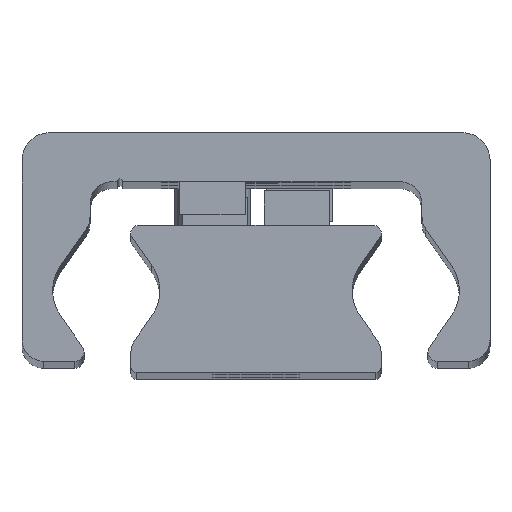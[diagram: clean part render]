
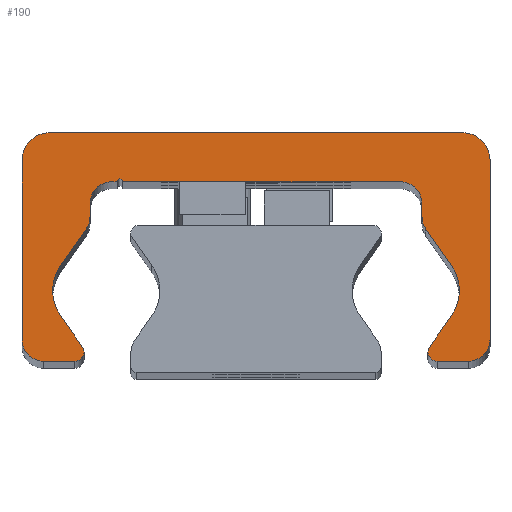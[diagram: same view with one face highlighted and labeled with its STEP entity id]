
A CAD part, top view. The second image highlights one B-rep face of the part: STEP entity #190.
In plain terms, the highlighted planar face has unit normal (0, 0, 1).
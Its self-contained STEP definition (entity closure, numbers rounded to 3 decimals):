
#190=ADVANCED_FACE('',(#468),#469,.T.);
#468=FACE_OUTER_BOUND('',#747,.T.);
#469=PLANE('',#748);
#747=EDGE_LOOP('',(#1714,#1715,#1716,#1717,#1718,#1719,#1720,#1721,#1722,#1723,#1724,#1725,#1726,#1727,#1728,#1729,#1730,#1731,#1732,#1733,#1734,#1735,#1736,#1737,#1738,#1739,#1740,#1741,#1742,#1743));
#748=AXIS2_PLACEMENT_3D('',#1744,#1745,#1746);
#1714=ORIENTED_EDGE('',*,*,#1949,.F.);
#1715=ORIENTED_EDGE('',*,*,#2102,.F.);
#1716=ORIENTED_EDGE('',*,*,#1935,.F.);
#1717=ORIENTED_EDGE('',*,*,#2101,.F.);
#1718=ORIENTED_EDGE('',*,*,#2097,.F.);
#1719=ORIENTED_EDGE('',*,*,#2094,.F.);
#1720=ORIENTED_EDGE('',*,*,#2091,.F.);
#1721=ORIENTED_EDGE('',*,*,#2088,.F.);
#1722=ORIENTED_EDGE('',*,*,#2085,.F.);
#1723=ORIENTED_EDGE('',*,*,#2082,.F.);
#1724=ORIENTED_EDGE('',*,*,#2079,.F.);
#1725=ORIENTED_EDGE('',*,*,#2076,.F.);
#1726=ORIENTED_EDGE('',*,*,#2073,.F.);
#1727=ORIENTED_EDGE('',*,*,#2070,.F.);
#1728=ORIENTED_EDGE('',*,*,#1941,.F.);
#1729=ORIENTED_EDGE('',*,*,#2068,.F.);
#1730=ORIENTED_EDGE('',*,*,#1943,.F.);
#1731=ORIENTED_EDGE('',*,*,#2067,.F.);
#1732=ORIENTED_EDGE('',*,*,#2063,.F.);
#1733=ORIENTED_EDGE('',*,*,#2060,.F.);
#1734=ORIENTED_EDGE('',*,*,#2057,.F.);
#1735=ORIENTED_EDGE('',*,*,#2054,.F.);
#1736=ORIENTED_EDGE('',*,*,#2051,.F.);
#1737=ORIENTED_EDGE('',*,*,#2048,.F.);
#1738=ORIENTED_EDGE('',*,*,#2045,.F.);
#1739=ORIENTED_EDGE('',*,*,#2042,.F.);
#1740=ORIENTED_EDGE('',*,*,#2039,.F.);
#1741=ORIENTED_EDGE('',*,*,#2036,.F.);
#1742=ORIENTED_EDGE('',*,*,#2033,.F.);
#1743=ORIENTED_EDGE('',*,*,#2030,.F.);
#1744=CARTESIAN_POINT('',(-0.023,14.187,370.0));
#1745=DIRECTION('',(0.0,0.0,1.0));
#1746=DIRECTION('',(1.0,0.0,0.0));
#1935=EDGE_CURVE('',#2354,#2357,#2358,.T.);
#1941=EDGE_CURVE('',#2367,#2363,#2369,.T.);
#1943=EDGE_CURVE('',#2370,#2373,#2374,.T.);
#1949=EDGE_CURVE('',#2383,#2379,#2385,.T.);
#2030=EDGE_CURVE('',#2379,#2516,#2517,.T.);
#2033=EDGE_CURVE('',#2516,#2521,#2522,.T.);
#2036=EDGE_CURVE('',#2521,#2526,#2527,.T.);
#2039=EDGE_CURVE('',#2526,#2531,#2532,.T.);
#2042=EDGE_CURVE('',#2531,#2536,#2537,.T.);
#2045=EDGE_CURVE('',#2536,#2541,#2542,.T.);
#2048=EDGE_CURVE('',#2541,#2546,#2547,.T.);
#2051=EDGE_CURVE('',#2546,#2551,#2552,.T.);
#2054=EDGE_CURVE('',#2551,#2556,#2557,.T.);
#2057=EDGE_CURVE('',#2556,#2561,#2562,.T.);
#2060=EDGE_CURVE('',#2561,#2566,#2567,.T.);
#2063=EDGE_CURVE('',#2566,#2571,#2572,.T.);
#2067=EDGE_CURVE('',#2571,#2370,#2577,.T.);
#2068=EDGE_CURVE('',#2373,#2367,#2578,.T.);
#2070=EDGE_CURVE('',#2363,#2580,#2581,.T.);
#2073=EDGE_CURVE('',#2580,#2585,#2586,.T.);
#2076=EDGE_CURVE('',#2585,#2590,#2591,.T.);
#2079=EDGE_CURVE('',#2590,#2595,#2596,.T.);
#2082=EDGE_CURVE('',#2595,#2600,#2601,.T.);
#2085=EDGE_CURVE('',#2600,#2605,#2606,.T.);
#2088=EDGE_CURVE('',#2605,#2610,#2611,.T.);
#2091=EDGE_CURVE('',#2610,#2615,#2616,.T.);
#2094=EDGE_CURVE('',#2615,#2620,#2621,.T.);
#2097=EDGE_CURVE('',#2620,#2625,#2626,.T.);
#2101=EDGE_CURVE('',#2625,#2354,#2631,.T.);
#2102=EDGE_CURVE('',#2357,#2383,#2632,.T.);
#2354=VERTEX_POINT('',#2974);
#2357=VERTEX_POINT('',#2978);
#2358=CIRCLE('',#2979,0.85);
#2363=VERTEX_POINT('',#2985);
#2367=VERTEX_POINT('',#2990);
#2369=CIRCLE('',#2993,0.85);
#2370=VERTEX_POINT('',#2994);
#2373=VERTEX_POINT('',#2998);
#2374=CIRCLE('',#2999,4.);
#2379=VERTEX_POINT('',#3005);
#2383=VERTEX_POINT('',#3010);
#2385=CIRCLE('',#3013,4.);
#2516=VERTEX_POINT('',#3190);
#2517=CIRCLE('',#3191,4.);
#2521=VERTEX_POINT('',#3196);
#2522=LINE('',#3197,#3198);
#2526=VERTEX_POINT('',#3204);
#2527=CIRCLE('',#3205,2.);
#2531=VERTEX_POINT('',#3210);
#2532=LINE('',#3211,#3212);
#2536=VERTEX_POINT('',#3218);
#2537=CIRCLE('',#3219,2.0);
#2541=VERTEX_POINT('',#3224);
#2542=LINE('',#3225,#3226);
#2546=VERTEX_POINT('',#3232);
#2547=CIRCLE('',#3233,0.25);
#2551=VERTEX_POINT('',#3238);
#2552=LINE('',#3239,#3240);
#2556=VERTEX_POINT('',#3246);
#2557=CIRCLE('',#3247,2.0);
#2561=VERTEX_POINT('',#3252);
#2562=LINE('',#3253,#3254);
#2566=VERTEX_POINT('',#3260);
#2567=CIRCLE('',#3261,2.0);
#2571=VERTEX_POINT('',#3266);
#2572=LINE('',#3267,#3268);
#2577=CIRCLE('',#3275,4.);
#2578=LINE('',#3276,#3277);
#2580=VERTEX_POINT('',#3280);
#2581=CIRCLE('',#3281,0.85);
#2585=VERTEX_POINT('',#3286);
#2586=LINE('',#3287,#3288);
#2590=VERTEX_POINT('',#3294);
#2591=CIRCLE('',#3295,2.);
#2595=VERTEX_POINT('',#3300);
#2596=LINE('',#3301,#3302);
#2600=VERTEX_POINT('',#3308);
#2601=CIRCLE('',#3309,2.5);
#2605=VERTEX_POINT('',#3314);
#2606=LINE('',#3315,#3316);
#2610=VERTEX_POINT('',#3322);
#2611=CIRCLE('',#3323,2.5);
#2615=VERTEX_POINT('',#3328);
#2616=LINE('',#3329,#3330);
#2620=VERTEX_POINT('',#3336);
#2621=CIRCLE('',#3337,2.);
#2625=VERTEX_POINT('',#3342);
#2626=LINE('',#3343,#3344);
#2631=CIRCLE('',#3351,0.85);
#2632=LINE('',#3352,#3353);
#2974=CARTESIAN_POINT('',(15.8,1.859,370.0));
#2978=CARTESIAN_POINT('',(15.922,2.298,370.0));
#2979=AXIS2_PLACEMENT_3D('',#3639,#3640,#3641);
#2985=CARTESIAN_POINT('',(-15.8,1.859,370.0));
#2990=CARTESIAN_POINT('',(-15.922,2.298,370.0));
#2993=AXIS2_PLACEMENT_3D('',#3651,#3652,#3653);
#2994=CARTESIAN_POINT('',(-18.688,7.509,370.0));
#2998=CARTESIAN_POINT('',(-17.964,5.214,370.0));
#2999=AXIS2_PLACEMENT_3D('',#3655,#3656,#3657);
#3005=CARTESIAN_POINT('',(18.688,7.509,370.0));
#3010=CARTESIAN_POINT('',(17.964,5.214,370.0));
#3013=AXIS2_PLACEMENT_3D('',#3667,#3668,#3669);
#3190=CARTESIAN_POINT('',(17.964,9.803,370.0));
#3191=AXIS2_PLACEMENT_3D('',#3818,#3819,#3820);
#3196=CARTESIAN_POINT('',(15.612,13.163,370.0));
#3197=CARTESIAN_POINT('',(15.612,13.163,370.0));
#3198=VECTOR('',#3825,1.0);
#3204=CARTESIAN_POINT('',(15.25,14.31,370.0));
#3205=AXIS2_PLACEMENT_3D('',#3828,#3829,#3830);
#3210=CARTESIAN_POINT('',(15.25,15.509,370.0));
#3211=CARTESIAN_POINT('',(15.25,15.509,370.0));
#3212=VECTOR('',#3835,1.0);
#3218=CARTESIAN_POINT('',(13.25,17.509,370.0));
#3219=AXIS2_PLACEMENT_3D('',#3838,#3839,#3840);
#3224=CARTESIAN_POINT('',(-12.25,17.509,370.0));
#3225=CARTESIAN_POINT('',(-12.25,17.509,370.0));
#3226=VECTOR('',#3845,1.0);
#3232=CARTESIAN_POINT('',(-12.75,17.509,370.0));
#3233=AXIS2_PLACEMENT_3D('',#3848,#3849,#3850);
#3238=CARTESIAN_POINT('',(-13.25,17.509,370.0));
#3239=CARTESIAN_POINT('',(-13.25,17.509,370.0));
#3240=VECTOR('',#3855,1.0);
#3246=CARTESIAN_POINT('',(-15.25,15.509,370.0));
#3247=AXIS2_PLACEMENT_3D('',#3858,#3859,#3860);
#3252=CARTESIAN_POINT('',(-15.25,14.31,370.0));
#3253=CARTESIAN_POINT('',(-15.25,14.31,370.0));
#3254=VECTOR('',#3865,1.0);
#3260=CARTESIAN_POINT('',(-15.612,13.163,370.0));
#3261=AXIS2_PLACEMENT_3D('',#3868,#3869,#3870);
#3266=CARTESIAN_POINT('',(-17.964,9.803,370.0));
#3267=CARTESIAN_POINT('',(-17.964,9.803,370.0));
#3268=VECTOR('',#3875,1.0);
#3275=AXIS2_PLACEMENT_3D('',#3881,#3882,#3883);
#3276=CARTESIAN_POINT('',(-15.922,2.298,370.0));
#3277=VECTOR('',#3884,1.0);
#3280=CARTESIAN_POINT('',(-16.65,1.009,370.0));
#3281=AXIS2_PLACEMENT_3D('',#3886,#3887,#3888);
#3286=CARTESIAN_POINT('',(-19.5,1.009,370.0));
#3287=CARTESIAN_POINT('',(-19.5,1.009,370.0));
#3288=VECTOR('',#3893,1.0);
#3294=CARTESIAN_POINT('',(-21.5,3.009,370.0));
#3295=AXIS2_PLACEMENT_3D('',#3896,#3897,#3898);
#3300=CARTESIAN_POINT('',(-21.5,19.509,370.0));
#3301=CARTESIAN_POINT('',(-21.5,19.509,370.0));
#3302=VECTOR('',#3903,1.0);
#3308=CARTESIAN_POINT('',(-19.0,22.009,370.0));
#3309=AXIS2_PLACEMENT_3D('',#3906,#3907,#3908);
#3314=CARTESIAN_POINT('',(19.0,22.009,370.0));
#3315=CARTESIAN_POINT('',(19.0,22.009,370.0));
#3316=VECTOR('',#3913,1.0);
#3322=CARTESIAN_POINT('',(21.5,19.509,370.0));
#3323=AXIS2_PLACEMENT_3D('',#3916,#3917,#3918);
#3328=CARTESIAN_POINT('',(21.5,3.009,370.0));
#3329=CARTESIAN_POINT('',(21.5,3.009,370.0));
#3330=VECTOR('',#3923,1.0);
#3336=CARTESIAN_POINT('',(19.5,1.009,370.0));
#3337=AXIS2_PLACEMENT_3D('',#3926,#3927,#3928);
#3342=CARTESIAN_POINT('',(16.65,1.009,370.0));
#3343=CARTESIAN_POINT('',(16.65,1.009,370.0));
#3344=VECTOR('',#3933,1.0);
#3351=AXIS2_PLACEMENT_3D('',#3939,#3940,#3941);
#3352=CARTESIAN_POINT('',(17.964,5.214,370.0));
#3353=VECTOR('',#3942,1.0);
#3639=CARTESIAN_POINT('',(16.65,1.859,370.0));
#3640=DIRECTION('',(0.0,0.0,-1.0));
#3641=DIRECTION('',(1.0,0.0,0.0));
#3651=CARTESIAN_POINT('',(-16.65,1.859,370.0));
#3652=DIRECTION('',(0.0,0.0,-1.0));
#3653=DIRECTION('',(1.0,0.0,0.0));
#3655=CARTESIAN_POINT('',(-14.688,7.509,370.0));
#3656=DIRECTION('',(0.0,0.0,1.0));
#3657=DIRECTION('',(1.0,0.0,0.0));
#3667=CARTESIAN_POINT('',(14.688,7.509,370.0));
#3668=DIRECTION('',(0.0,0.0,1.0));
#3669=DIRECTION('',(1.0,0.0,0.0));
#3818=CARTESIAN_POINT('',(14.688,7.509,370.0));
#3819=DIRECTION('',(0.0,0.0,1.0));
#3820=DIRECTION('',(1.0,0.0,0.0));
#3825=DIRECTION('',(-0.574,0.819,0.0));
#3828=CARTESIAN_POINT('',(17.25,14.31,370.0));
#3829=DIRECTION('',(0.0,0.0,-1.0));
#3830=DIRECTION('',(1.0,0.0,0.0));
#3835=DIRECTION('',(0.0,1.0,0.0));
#3838=CARTESIAN_POINT('',(13.25,15.509,370.0));
#3839=DIRECTION('',(0.0,0.0,1.0));
#3840=DIRECTION('',(1.0,0.0,0.0));
#3845=DIRECTION('',(-1.0,-0.0,-0.0));
#3848=CARTESIAN_POINT('',(-12.5,17.509,370.0));
#3849=DIRECTION('',(0.0,0.0,1.0));
#3850=DIRECTION('',(1.0,0.0,0.0));
#3855=DIRECTION('',(-1.0,-0.0,-0.0));
#3858=CARTESIAN_POINT('',(-13.25,15.509,370.0));
#3859=DIRECTION('',(0.0,0.0,1.0));
#3860=DIRECTION('',(1.0,0.0,0.0));
#3865=DIRECTION('',(-0.0,-1.0,-0.0));
#3868=CARTESIAN_POINT('',(-17.25,14.31,370.0));
#3869=DIRECTION('',(0.0,0.0,-1.0));
#3870=DIRECTION('',(1.0,0.0,0.0));
#3875=DIRECTION('',(-0.574,-0.819,-0.0));
#3881=CARTESIAN_POINT('',(-14.688,7.509,370.0));
#3882=DIRECTION('',(0.0,0.0,1.0));
#3883=DIRECTION('',(1.0,0.0,0.0));
#3884=DIRECTION('',(0.574,-0.819,0.0));
#3886=CARTESIAN_POINT('',(-16.65,1.859,370.0));
#3887=DIRECTION('',(0.0,0.0,-1.0));
#3888=DIRECTION('',(1.0,0.0,0.0));
#3893=DIRECTION('',(-1.0,-0.0,-0.0));
#3896=CARTESIAN_POINT('',(-19.5,3.009,370.0));
#3897=DIRECTION('',(0.0,0.0,-1.0));
#3898=DIRECTION('',(1.0,0.0,0.0));
#3903=DIRECTION('',(0.0,1.0,0.0));
#3906=CARTESIAN_POINT('',(-19.0,19.509,370.0));
#3907=DIRECTION('',(0.0,0.0,-1.0));
#3908=DIRECTION('',(1.0,0.0,0.0));
#3913=DIRECTION('',(1.0,0.0,0.0));
#3916=CARTESIAN_POINT('',(19.0,19.509,370.0));
#3917=DIRECTION('',(0.0,0.0,-1.0));
#3918=DIRECTION('',(1.0,0.0,0.0));
#3923=DIRECTION('',(-0.0,-1.0,-0.0));
#3926=CARTESIAN_POINT('',(19.5,3.009,370.0));
#3927=DIRECTION('',(0.0,0.0,-1.0));
#3928=DIRECTION('',(1.0,0.0,0.0));
#3933=DIRECTION('',(-1.0,-0.0,-0.0));
#3939=CARTESIAN_POINT('',(16.65,1.859,370.0));
#3940=DIRECTION('',(0.0,0.0,-1.0));
#3941=DIRECTION('',(1.0,0.0,0.0));
#3942=DIRECTION('',(0.574,0.819,0.0));
